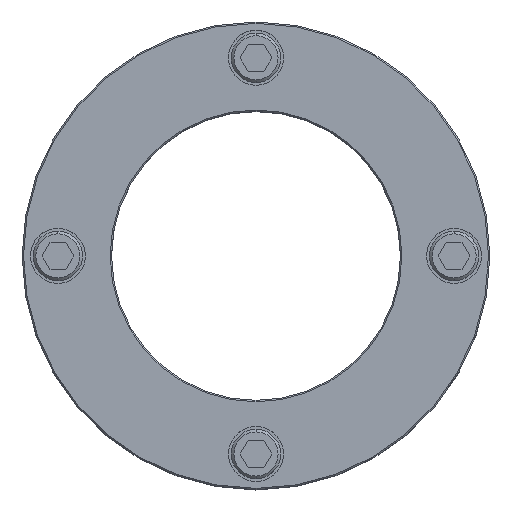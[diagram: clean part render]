
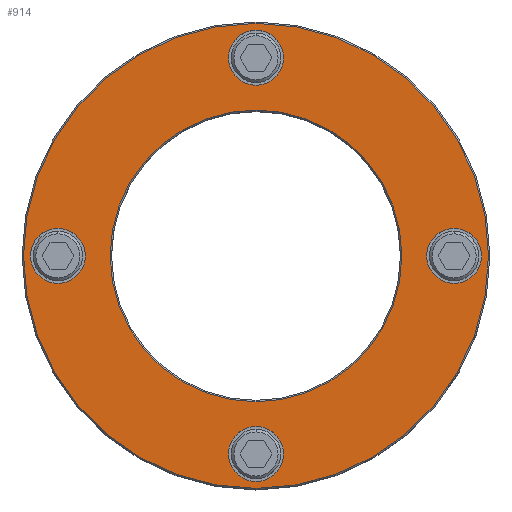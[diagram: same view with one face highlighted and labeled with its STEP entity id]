
A CAD part, top view. The second image highlights one B-rep face of the part: STEP entity #914.
In plain terms, the highlighted planar face has unit normal (0, 0, 1).
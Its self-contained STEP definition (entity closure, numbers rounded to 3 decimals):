
#105=VERTEX_POINT(' ',#106);
#106=CARTESIAN_POINT('',(0.,62.,50.));
#107=VERTEX_POINT(' ',#108);
#108=CARTESIAN_POINT('',(0.,82.,50.));
#113=VERTEX_POINT(' ',#114);
#114=CARTESIAN_POINT('',(0.,-82.,50.));
#115=VERTEX_POINT(' ',#116);
#116=CARTESIAN_POINT('',(0.,-62.,50.));
#125=VERTEX_POINT(' ',#126);
#126=CARTESIAN_POINT('',(72.,10.,50.));
#127=VERTEX_POINT(' ',#128);
#128=CARTESIAN_POINT('',(72.,-10.,50.));
#133=VERTEX_POINT(' ',#134);
#134=CARTESIAN_POINT('',(-72.,10.,50.));
#135=VERTEX_POINT(' ',#136);
#136=CARTESIAN_POINT('',(-72.,-10.,50.));
#155=VERTEX_POINT(' ',#156);
#156=CARTESIAN_POINT('',(0.,84.5,50.));
#157=VERTEX_POINT(' ',#158);
#158=CARTESIAN_POINT('',(0.,-84.5,50.));
#161=VERTEX_POINT(' ',#162);
#162=CARTESIAN_POINT('',(0.,-53.,50.));
#163=VERTEX_POINT(' ',#164);
#164=CARTESIAN_POINT('',(0.,53.,50.));
#253=CIRCLE('',#254,10.);
#254=AXIS2_PLACEMENT_3D('',#255,#256,#257);
#255=CARTESIAN_POINT('',(0.,72.,50.));
#256=DIRECTION('',(0.,0.,-1.));
#257=DIRECTION('',(-1.,0.,0.));
#258=EDGE_CURVE(' ',#105,#107,#253,.F.);
#275=CIRCLE('',#276,10.);
#276=AXIS2_PLACEMENT_3D('',#277,#278,#279);
#277=CARTESIAN_POINT('',(0.,72.,50.));
#278=DIRECTION('',(0.,0.,-1.));
#279=DIRECTION('',(1.,0.,0.));
#280=EDGE_CURVE(' ',#107,#105,#275,.F.);
#287=CIRCLE('',#288,10.);
#288=AXIS2_PLACEMENT_3D('',#289,#290,#291);
#289=CARTESIAN_POINT('',(0.,-72.,50.));
#290=DIRECTION('',(0.,0.,-1.));
#291=DIRECTION('',(-1.,0.,0.));
#292=EDGE_CURVE(' ',#113,#115,#287,.F.);
#309=CIRCLE('',#310,10.);
#310=AXIS2_PLACEMENT_3D('',#311,#312,#313);
#311=CARTESIAN_POINT('',(0.,-72.,50.));
#312=DIRECTION('',(0.,0.,-1.));
#313=DIRECTION('',(1.,0.,0.));
#314=EDGE_CURVE(' ',#115,#113,#309,.F.);
#332=CIRCLE('',#333,10.);
#333=AXIS2_PLACEMENT_3D('',#334,#335,#336);
#334=CARTESIAN_POINT('',(72.,0.,50.));
#335=DIRECTION('',(0.,0.,1.));
#336=DIRECTION('',(1.,0.,0.));
#337=EDGE_CURVE(' ',#125,#127,#332,.T.);
#349=CIRCLE('',#350,10.);
#350=AXIS2_PLACEMENT_3D('',#351,#352,#353);
#351=CARTESIAN_POINT('',(72.,0.,50.));
#352=DIRECTION('',(0.,0.,1.));
#353=DIRECTION('',(-1.,0.,0.));
#354=EDGE_CURVE(' ',#127,#125,#349,.T.);
#366=CIRCLE('',#367,10.);
#367=AXIS2_PLACEMENT_3D('',#368,#369,#370);
#368=CARTESIAN_POINT('',(-72.,0.,50.));
#369=DIRECTION('',(0.,0.,1.));
#370=DIRECTION('',(1.,0.,0.));
#371=EDGE_CURVE(' ',#133,#135,#366,.T.);
#383=CIRCLE('',#384,10.);
#384=AXIS2_PLACEMENT_3D('',#385,#386,#387);
#385=CARTESIAN_POINT('',(-72.,0.,50.));
#386=DIRECTION('',(0.,0.,1.));
#387=DIRECTION('',(-1.,0.,0.));
#388=EDGE_CURVE(' ',#135,#133,#383,.T.);
#462=CIRCLE('',#463,84.5);
#463=AXIS2_PLACEMENT_3D('',#464,#465,#466);
#464=CARTESIAN_POINT('',(0.,0.,50.));
#465=DIRECTION('',(0.,0.,1.));
#466=DIRECTION('',(-1.,0.,0.));
#467=EDGE_CURVE(' ',#155,#157,#462,.F.);
#485=CIRCLE('',#486,84.5);
#486=AXIS2_PLACEMENT_3D('',#487,#488,#489);
#487=CARTESIAN_POINT('',(0.,0.,50.));
#488=DIRECTION('',(0.,0.,1.));
#489=DIRECTION('',(1.,0.,0.));
#490=EDGE_CURVE(' ',#157,#155,#485,.F.);
#491=CIRCLE('',#492,53.);
#492=AXIS2_PLACEMENT_3D('',#493,#494,#495);
#493=CARTESIAN_POINT('',(0.,0.,50.));
#494=DIRECTION('',(0.,0.,-1.));
#495=DIRECTION('',(1.,0.,0.));
#496=EDGE_CURVE(' ',#163,#161,#491,.F.);
#497=CIRCLE('',#498,53.);
#498=AXIS2_PLACEMENT_3D('',#499,#500,#501);
#499=CARTESIAN_POINT('',(0.,0.,50.));
#500=DIRECTION('',(0.,0.,-1.));
#501=DIRECTION('',(-1.,0.,0.));
#502=EDGE_CURVE(' ',#161,#163,#497,.F.);
#885=ORIENTED_EDGE('',*,*,#467,.F.);
#886=ORIENTED_EDGE('',*,*,#490,.F.);
#887=EDGE_LOOP('',(#885,#886));
#888=FACE_OUTER_BOUND('',#887,.T.);
#889=ORIENTED_EDGE('',*,*,#496,.F.);
#890=ORIENTED_EDGE('',*,*,#502,.F.);
#891=EDGE_LOOP('',(#889,#890));
#892=FACE_BOUND('',#891,.T.);
#893=ORIENTED_EDGE('',*,*,#388,.F.);
#894=ORIENTED_EDGE('',*,*,#371,.F.);
#895=EDGE_LOOP('',(#893,#894));
#896=FACE_BOUND('',#895,.T.);
#897=ORIENTED_EDGE('',*,*,#354,.F.);
#898=ORIENTED_EDGE('',*,*,#337,.F.);
#899=EDGE_LOOP('',(#897,#898));
#900=FACE_BOUND('',#899,.T.);
#901=ORIENTED_EDGE('',*,*,#314,.F.);
#902=ORIENTED_EDGE('',*,*,#292,.F.);
#903=EDGE_LOOP('',(#901,#902));
#904=FACE_BOUND('',#903,.T.);
#905=ORIENTED_EDGE('',*,*,#280,.F.);
#906=ORIENTED_EDGE('',*,*,#258,.F.);
#907=EDGE_LOOP('',(#905,#906));
#908=FACE_BOUND('',#907,.T.);
#909=PLANE('',#910);
#910=AXIS2_PLACEMENT_3D('',#911,#912,#913);
#911=CARTESIAN_POINT('',(85.,0.,50.));
#912=DIRECTION('',(0.,0.,1.));
#913=DIRECTION('',(0.,1.,0.));
#914=ADVANCED_FACE('',(#888,#892,#896,#900,#904,#908),#909,.T.);
